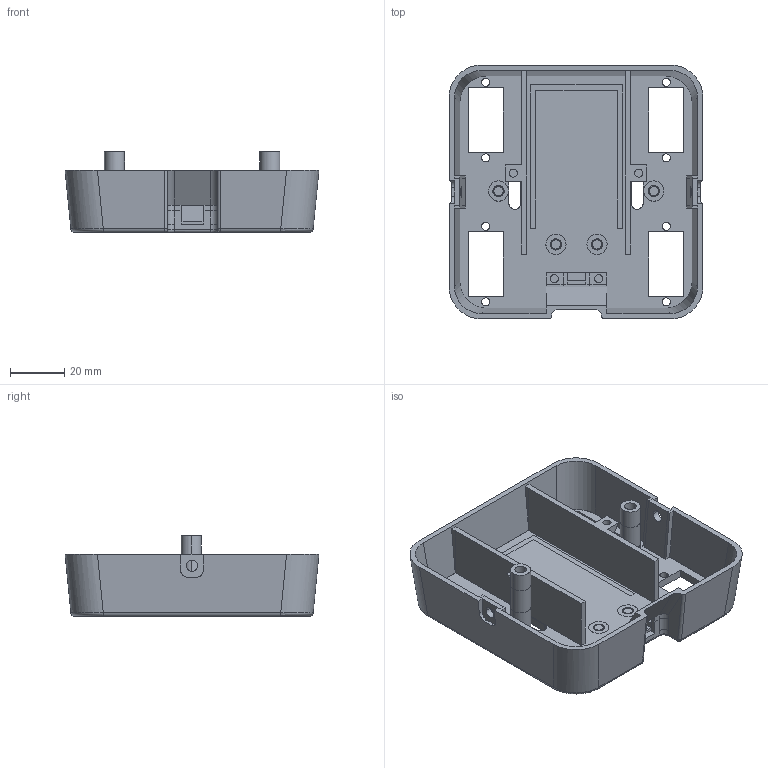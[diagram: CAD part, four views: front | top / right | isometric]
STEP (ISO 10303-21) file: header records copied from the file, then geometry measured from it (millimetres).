
FILE_DESCRIPTION(/* description */ (''),/* implementation_level */ '2;1');
FILE_NAME(/* name */ 'Base Bottom Test - PCB Container:Holder V6',/* time_stamp */ '2025-06-03T15:44:00-04:00',/* author */ (''),/* organization */ (''),/* preprocessor_version */ 'ST-DEVELOPER v19.2',/* originating_system */ 'Rhino 8.19',/* authorisation */ '');
FILE_SCHEMA (('CONFIG_CONTROL_DESIGN'));
Length unit declared in the file: millimetre
Products named in the file (1): Document
Bounding box: 94 x 94 x 29.97 mm (x, y, z)
Volume: 40825.1 mm3; surface area: 36784.2 mm2
Topology: 1 solids, 1 shells, 368 faces, 979 edges, 629 vertices
Faces by surface type: plane 266, cylinder 78, bspline 24
Entity records: 11251 total; most frequent: CARTESIAN_POINT 4037, ORIENTED_EDGE 1958, EDGE_CURVE 979, B_SPLINE_CURVE_WITH_KNOTS 768, VERTEX_POINT 629, DIRECTION 568, AXIS2_PLACEMENT_3D 454, EDGE_LOOP 418
